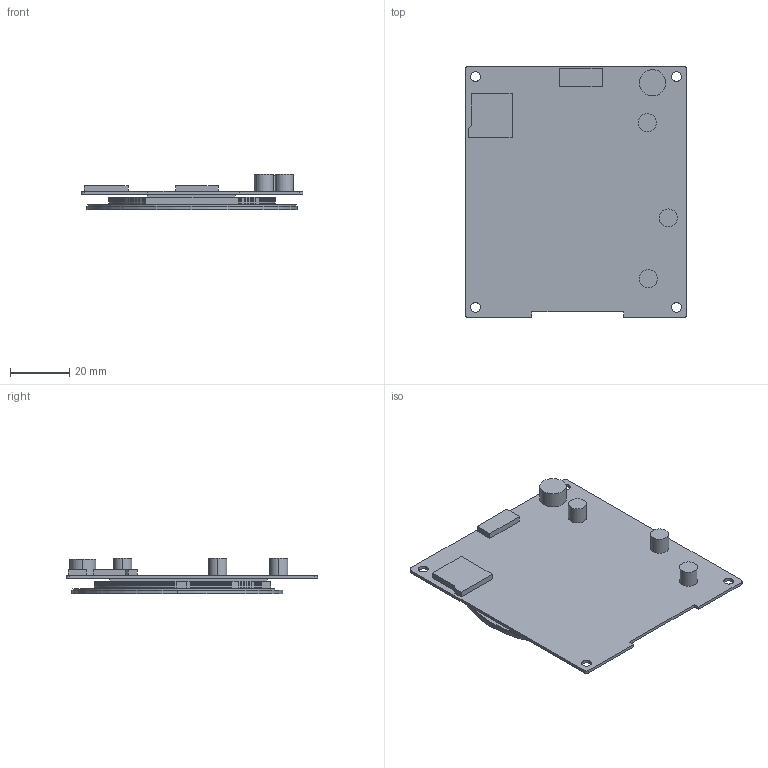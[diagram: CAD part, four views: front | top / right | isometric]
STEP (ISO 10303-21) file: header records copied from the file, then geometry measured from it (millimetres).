
FILE_DESCRIPTION((''),'2;1');
FILE_NAME('DMG48480C021_03WTC-220623','2022-06-23T',('Administrator'),(''),'PRO/ENGINEER BY PARAMETRIC TECHNOLOGY CORPORATION, 2008380','PRO/ENGINEER BY PARAMETRIC TECHNOLOGY CORPORATION, 2008380','');
FILE_SCHEMA(('CONFIG_CONTROL_DESIGN'));
Products named in the file (1): DMG48480C021_03WTC-220623
Bounding box: 75 x 85 x 11.95 mm (x, y, z)
Volume: 22446 mm3; surface area: 20054.3 mm2
Topology: 1 solids, 1 shells, 768 faces, 13035 edges, 19099 vertices
Faces by surface type: plane 743, cylinder 25
Entity records: 115408 total; most frequent: DIRECTION 18617, CARTESIAN_POINT 15314, PRESENTATION_STYLE_ASSIGNMENT 10779, STYLED_ITEM 10779, CURVE_STYLE 10774, TRIMMED_CURVE 10770, VECTOR 8991, LINE 8991
